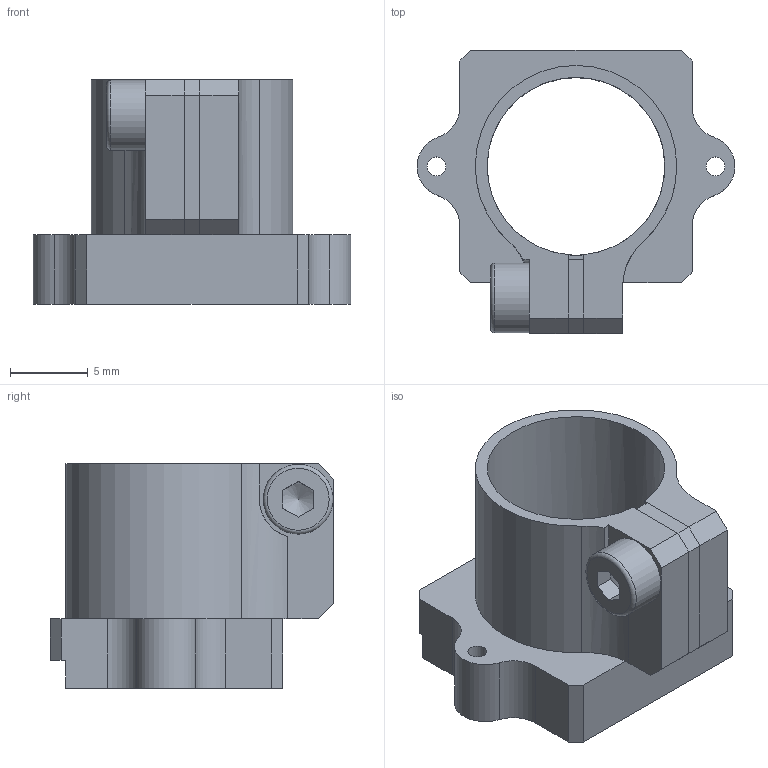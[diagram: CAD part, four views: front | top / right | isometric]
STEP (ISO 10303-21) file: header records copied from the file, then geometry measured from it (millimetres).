
FILE_DESCRIPTION(/* description */ (''),/* implementation_level */ '2;1');
FILE_NAME(/* name */ 'KSM_168-14-2-10-01-d_ZB MLH 10,0 mm (Schraube+Silikon).stp',/* time_stamp */ '2026-01-20T21:46:16+01:00',/* author */ ('khw'),/* organization */ ('TIS/ Germany'),/* preprocessor_version */ 'ST-DEVELOPER v20',/* originating_system */ 'Autodesk Inventor 2025',/* authorisation */ '6767,5 mm^3');
FILE_SCHEMA (('AUTOMOTIVE_DESIGN { 1 0 10303 214 3 1 1 }'));
Length unit declared in the file: millimetre
Products named in the file (1): KSM_168-14-2-10-01-d_ZB MLH 10,0 mm (Schraube+Silikon)
Bounding box: 20.49 x 18.3 x 14.5 mm (x, y, z)
Volume: 932.9 mm3; surface area: 1755.3 mm2
Topology: 1 solids, 1 shells, 70 faces, 188 edges, 121 vertices
Faces by surface type: plane 48, cylinder 19, cone 2, torus 1
Full cylindrical faces by diameter (mm): 1.221 x2, 2.013 x1, 4.5 x1, 11.459 x1
Entity records: 2330 total; most frequent: CARTESIAN_POINT 416, ORIENTED_EDGE 374, DIRECTION 364, EDGE_CURVE 187, LINE 132, VECTOR 132, VERTEX_POINT 121, AXIS2_PLACEMENT_3D 116
